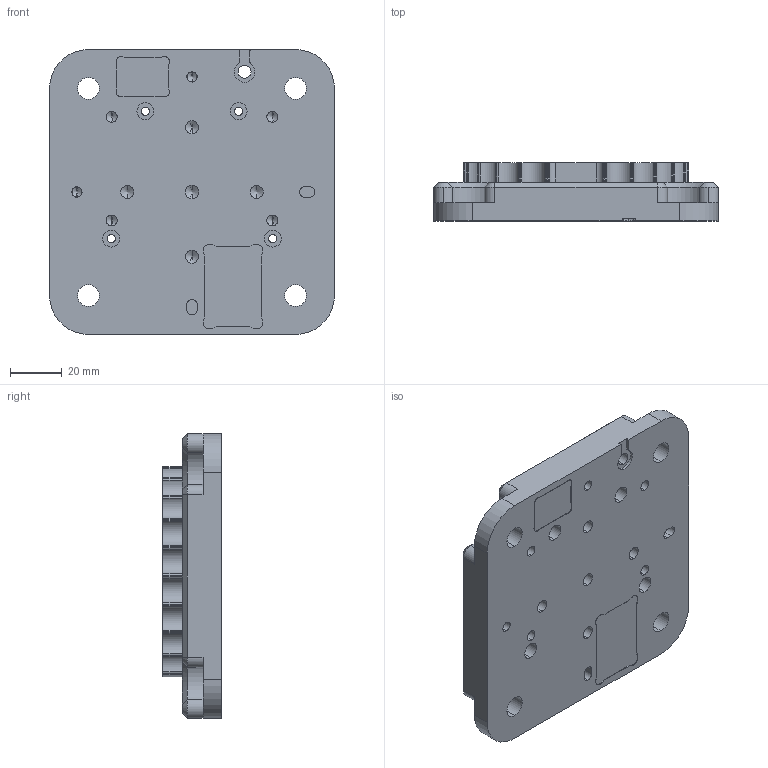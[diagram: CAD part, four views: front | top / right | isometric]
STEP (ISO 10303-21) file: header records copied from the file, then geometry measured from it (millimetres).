
FILE_DESCRIPTION (( 'STEP AP214' ), '1' );
FILE_NAME ('320-102985-BaseplateOSX_Universal.STEP', '2026-05-01T21:58:54', ( '' ), ( '' ), 'SwSTEP 2.0', 'SolidWorks 2022', '' );
FILE_SCHEMA (( 'AUTOMOTIVE_DESIGN' ));
Length unit declared in the file: millimetre
Products named in the file (1): 320-102985-BaseplateOSX_Universal
Bounding box: 110 x 22.5 x 110 mm (x, y, z)
Volume: 194273.7 mm3; surface area: 36589.1 mm2
Topology: 1 solids, 1 shells, 312 faces, 847 edges, 537 vertices
Faces by surface type: cylinder 222, plane 48, cone 42
Entity records: 10133 total; most frequent: DIRECTION 1908, CARTESIAN_POINT 1679, ORIENTED_EDGE 1642, EDGE_CURVE 821, AXIS2_PLACEMENT_3D 776, VERTEX_POINT 537, CIRCLE 463, LINE 356
